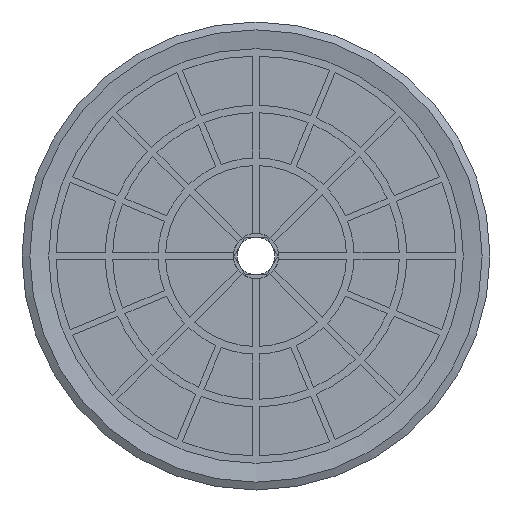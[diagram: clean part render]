
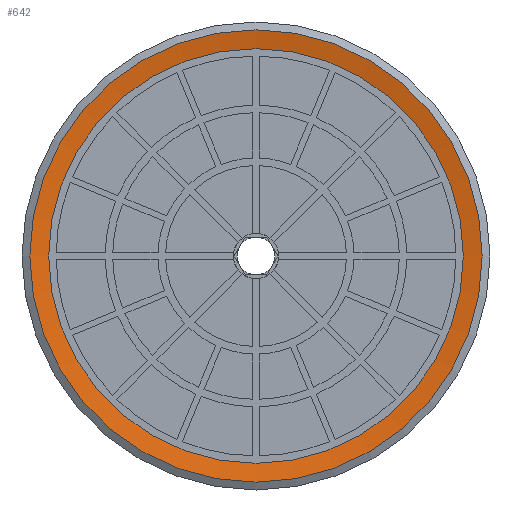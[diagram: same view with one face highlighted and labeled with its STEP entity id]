
A CAD part, front view. The second image highlights one B-rep face of the part: STEP entity #642.
In plain terms, the highlighted conical face has half-angle 80 degrees and reference radius 15 mm.
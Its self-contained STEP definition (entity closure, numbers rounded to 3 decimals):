
#642=ADVANCED_FACE('',(#1238,#1239),#1240,.F.);
#1238=FACE_BOUND('',#1976,.T.);
#1239=FACE_OUTER_BOUND('',#1977,.T.);
#1240=CONICAL_SURFACE('',#1978,15.0,1.396);
#1976=EDGE_LOOP('',(#3720));
#1977=EDGE_LOOP('',(#3721));
#1978=AXIS2_PLACEMENT_3D('',#3722,#3723,#3724);
#3720=ORIENTED_EDGE('',*,*,#5257,.T.);
#3721=ORIENTED_EDGE('',*,*,#5057,.F.);
#3722=CARTESIAN_POINT('',(0.0,0.,0.));
#3723=DIRECTION('',(0.0,0.,-1.0));
#3724=DIRECTION('',(0.0,1.0,0.));
#5057=EDGE_CURVE('',#6070,#6070,#6071,.T.);
#5257=EDGE_CURVE('',#6418,#6418,#6419,.T.);
#6070=VERTEX_POINT('',#7830);
#6071=CIRCLE('',#7831,15.0);
#6418=VERTEX_POINT('',#8293);
#6419=CIRCLE('',#8294,13.75);
#7830=CARTESIAN_POINT('',(0.0,-15.0,0.));
#7831=AXIS2_PLACEMENT_3D('',#9168,#9169,#9170);
#8293=CARTESIAN_POINT('',(0.0,-13.75,0.22));
#8294=AXIS2_PLACEMENT_3D('',#9538,#9539,#9540);
#9168=CARTESIAN_POINT('',(0.0,0.,0.));
#9169=DIRECTION('',(0.0,0.,1.0));
#9170=DIRECTION('',(0.0,-1.0,0.));
#9538=CARTESIAN_POINT('',(0.0,0.,0.22));
#9539=DIRECTION('',(0.0,0.,1.0));
#9540=DIRECTION('',(0.0,-1.0,0.));
